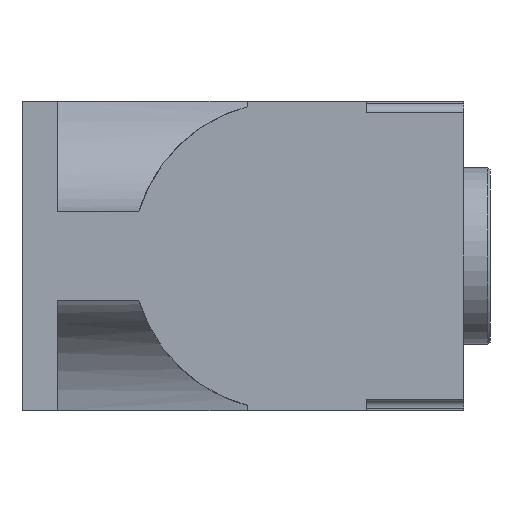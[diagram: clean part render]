
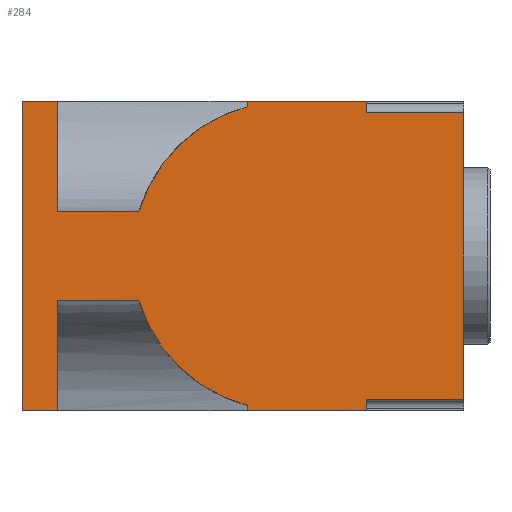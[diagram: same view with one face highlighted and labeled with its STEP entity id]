
A CAD part, front view. The second image highlights one B-rep face of the part: STEP entity #284.
In plain terms, the highlighted planar face has unit normal (0, -1, 0).
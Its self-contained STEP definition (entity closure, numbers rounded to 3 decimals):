
#284 = ADVANCED_FACE( '', ( #702 ), #703, .F. );
#702 = FACE_OUTER_BOUND( '', #1300, .T. );
#703 = PLANE( '', #1301 );
#1300 = EDGE_LOOP( '', ( #2154, #2155, #2156, #2157, #2158, #2159, #2160, #2161, #2162, #2163, #2164, #2165, #2166, #2167, #2168, #2169, #2170, #2171 ) );
#1301 = AXIS2_PLACEMENT_3D( '', #2172, #2173, #2174 );
#2154 = ORIENTED_EDGE( '', *, *, #3185, .F. );
#2155 = ORIENTED_EDGE( '', *, *, #3430, .T. );
#2156 = ORIENTED_EDGE( '', *, *, #3431, .F. );
#2157 = ORIENTED_EDGE( '', *, *, #3432, .F. );
#2158 = ORIENTED_EDGE( '', *, *, #3433, .T. );
#2159 = ORIENTED_EDGE( '', *, *, #3434, .F. );
#2160 = ORIENTED_EDGE( '', *, *, #3241, .F. );
#2161 = ORIENTED_EDGE( '', *, *, #3435, .F. );
#2162 = ORIENTED_EDGE( '', *, *, #3426, .T. );
#2163 = ORIENTED_EDGE( '', *, *, #3436, .T. );
#2164 = ORIENTED_EDGE( '', *, *, #3317, .F. );
#2165 = ORIENTED_EDGE( '', *, *, #3231, .T. );
#2166 = ORIENTED_EDGE( '', *, *, #3437, .F. );
#2167 = ORIENTED_EDGE( '', *, *, #3423, .T. );
#2168 = ORIENTED_EDGE( '', *, *, #3219, .T. );
#2169 = ORIENTED_EDGE( '', *, *, #3438, .F. );
#2170 = ORIENTED_EDGE( '', *, *, #3439, .F. );
#2171 = ORIENTED_EDGE( '', *, *, #3440, .F. );
#2172 = CARTESIAN_POINT( '', ( 100., -35., 35. ) );
#2173 = DIRECTION( '', ( 0., 1., 0. ) );
#2174 = DIRECTION( '', ( 0., 0., 1. ) );
#3185 = EDGE_CURVE( '', #3733, #3736, #3737, .T. );
#3219 = EDGE_CURVE( '', #3796, #3800, #3802, .T. );
#3231 = EDGE_CURVE( '', #3815, #3821, #3823, .T. );
#3241 = EDGE_CURVE( '', #3839, #3834, #3841, .T. );
#3317 = EDGE_CURVE( '', #3815, #3964, #3966, .T. );
#3423 = EDGE_CURVE( '', #4141, #3796, #4142, .T. );
#3426 = EDGE_CURVE( '', #4146, #4144, #4147, .T. );
#3430 = EDGE_CURVE( '', #3733, #4151, #4152, .T. );
#3431 = EDGE_CURVE( '', #4153, #4151, #4154, .T. );
#3432 = EDGE_CURVE( '', #4155, #4153, #4156, .T. );
#3433 = EDGE_CURVE( '', #4155, #4157, #4158, .T. );
#3434 = EDGE_CURVE( '', #3834, #4157, #4159, .T. );
#3435 = EDGE_CURVE( '', #4146, #3839, #4160, .T. );
#3436 = EDGE_CURVE( '', #4144, #3964, #4161, .T. );
#3437 = EDGE_CURVE( '', #4141, #3821, #4162, .T. );
#3438 = EDGE_CURVE( '', #4163, #3800, #4164, .T. );
#3439 = EDGE_CURVE( '', #4165, #4163, #4166, .T. );
#3440 = EDGE_CURVE( '', #3736, #4165, #4167, .T. );
#3733 = VERTEX_POINT( '', #4539 );
#3736 = VERTEX_POINT( '', #4543 );
#3737 = CIRCLE( '', #4544, 35. );
#3796 = VERTEX_POINT( '', #4676 );
#3800 = VERTEX_POINT( '', #4682 );
#3802 = LINE( '', #4685, #4686 );
#3815 = VERTEX_POINT( '', #4704 );
#3821 = VERTEX_POINT( '', #4740 );
#3823 = LINE( '', #4742, #4743 );
#3834 = VERTEX_POINT( '', #4758 );
#3839 = VERTEX_POINT( '', #4765 );
#3841 = LINE( '', #4768, #4769 );
#3964 = VERTEX_POINT( '', #4962 );
#3966 = CIRCLE( '', #4965, 35. );
#4141 = VERTEX_POINT( '', #5214 );
#4142 = LINE( '', #5215, #5216 );
#4144 = VERTEX_POINT( '', #5219 );
#4146 = VERTEX_POINT( '', #5222 );
#4147 = LINE( '', #5223, #5224 );
#4151 = VERTEX_POINT( '', #5230 );
#4152 = LINE( '', #5231, #5232 );
#4153 = VERTEX_POINT( '', #5233 );
#4154 = LINE( '', #5234, #5235 );
#4155 = VERTEX_POINT( '', #5236 );
#4156 = LINE( '', #5237, #5238 );
#4157 = VERTEX_POINT( '', #5239 );
#4158 = LINE( '', #5240, #5241 );
#4159 = LINE( '', #5242, #5243 );
#4160 = LINE( '', #5244, #5245 );
#4161 = LINE( '', #5246, #5247 );
#4162 = LINE( '', #5248, #5249 );
#4163 = VERTEX_POINT( '', #5250 );
#4164 = LINE( '', #5251, #5252 );
#4165 = VERTEX_POINT( '', #5253 );
#4166 = LINE( '', #5254, #5255 );
#4167 = LINE( '', #5256, #5257 );
#4539 = CARTESIAN_POINT( '', ( 51., -35., -33.823 ) );
#4543 = CARTESIAN_POINT( '', ( 26.459, -35., -10. ) );
#4544 = AXIS2_PLACEMENT_3D( '', #5817, #5818, #5819 );
#4676 = CARTESIAN_POINT( '', ( 0., -35., 35. ) );
#4682 = CARTESIAN_POINT( '', ( 0., -35., -35. ) );
#4685 = CARTESIAN_POINT( '', ( 0., -35., 35. ) );
#4686 = VECTOR( '', #5886, 1000. );
#4704 = CARTESIAN_POINT( '', ( 26.459, -35., 10. ) );
#4740 = CARTESIAN_POINT( '', ( 8., -35., 10. ) );
#4742 = CARTESIAN_POINT( '', ( 51., -35., 10. ) );
#4743 = VECTOR( '', #5902, 1000. );
#4758 = CARTESIAN_POINT( '', ( 100., -35., 32.5 ) );
#4765 = CARTESIAN_POINT( '', ( 78., -35., 32.5 ) );
#4768 = CARTESIAN_POINT( '', ( 78., -35., 32.5 ) );
#4769 = VECTOR( '', #5910, 1000. );
#4962 = CARTESIAN_POINT( '', ( 51., -35., 33.823 ) );
#4965 = AXIS2_PLACEMENT_3D( '', #5987, #5988, #5989 );
#5214 = CARTESIAN_POINT( '', ( 8., -35., 35. ) );
#5215 = CARTESIAN_POINT( '', ( 100., -35., 35. ) );
#5216 = VECTOR( '', #6100, 1000. );
#5219 = CARTESIAN_POINT( '', ( 51., -35., 35. ) );
#5222 = CARTESIAN_POINT( '', ( 78., -35., 35. ) );
#5223 = CARTESIAN_POINT( '', ( 100., -35., 35. ) );
#5224 = VECTOR( '', #6103, 1000. );
#5230 = CARTESIAN_POINT( '', ( 51., -35., -35. ) );
#5231 = CARTESIAN_POINT( '', ( 51., -35., 35. ) );
#5232 = VECTOR( '', #6106, 1000. );
#5233 = CARTESIAN_POINT( '', ( 78., -35., -35. ) );
#5234 = CARTESIAN_POINT( '', ( 100., -35., -35. ) );
#5235 = VECTOR( '', #6107, 1000. );
#5236 = CARTESIAN_POINT( '', ( 78., -35., -32.5 ) );
#5237 = CARTESIAN_POINT( '', ( 78., -35., 35. ) );
#5238 = VECTOR( '', #6108, 1000. );
#5239 = CARTESIAN_POINT( '', ( 100., -35., -32.5 ) );
#5240 = CARTESIAN_POINT( '', ( 78., -35., -32.5 ) );
#5241 = VECTOR( '', #6109, 1000. );
#5242 = CARTESIAN_POINT( '', ( 100., -35., 35. ) );
#5243 = VECTOR( '', #6110, 1000. );
#5244 = CARTESIAN_POINT( '', ( 78., -35., 35. ) );
#5245 = VECTOR( '', #6111, 1000. );
#5246 = CARTESIAN_POINT( '', ( 51., -35., 35. ) );
#5247 = VECTOR( '', #6112, 1000. );
#5248 = CARTESIAN_POINT( '', ( 8., -35., 35. ) );
#5249 = VECTOR( '', #6113, 1000. );
#5250 = CARTESIAN_POINT( '', ( 8., -35., -35. ) );
#5251 = CARTESIAN_POINT( '', ( 100., -35., -35. ) );
#5252 = VECTOR( '', #6114, 1000. );
#5253 = CARTESIAN_POINT( '', ( 8., -35., -10. ) );
#5254 = CARTESIAN_POINT( '', ( 8., -35., 35. ) );
#5255 = VECTOR( '', #6115, 1000. );
#5256 = CARTESIAN_POINT( '', ( 51., -35., -10. ) );
#5257 = VECTOR( '', #6116, 1000. );
#5817 = CARTESIAN_POINT( '', ( 60., -35., 0. ) );
#5818 = DIRECTION( '', ( 0., 1., 0. ) );
#5819 = DIRECTION( '', ( 1., 0., 0. ) );
#5886 = DIRECTION( '', ( 0., 0., -1. ) );
#5902 = DIRECTION( '', ( -1., 0., 0. ) );
#5910 = DIRECTION( '', ( 1., 0., 0. ) );
#5987 = CARTESIAN_POINT( '', ( 60., -35., 0. ) );
#5988 = DIRECTION( '', ( 0., 1., 0. ) );
#5989 = DIRECTION( '', ( 1., 0., 0. ) );
#6100 = DIRECTION( '', ( -1., 0., 0. ) );
#6103 = DIRECTION( '', ( -1., 0., 0. ) );
#6106 = DIRECTION( '', ( 0., 0., -1. ) );
#6107 = DIRECTION( '', ( -1., 0., 0. ) );
#6108 = DIRECTION( '', ( 0., 0., -1. ) );
#6109 = DIRECTION( '', ( 1., 0., 0. ) );
#6110 = DIRECTION( '', ( 0., 0., -1. ) );
#6111 = DIRECTION( '', ( 0., 0., -1. ) );
#6112 = DIRECTION( '', ( 0., 0., -1. ) );
#6113 = DIRECTION( '', ( 0., 0., -1. ) );
#6114 = DIRECTION( '', ( -1., 0., 0. ) );
#6115 = DIRECTION( '', ( 0., 0., -1. ) );
#6116 = DIRECTION( '', ( -1., 0., 0. ) );
